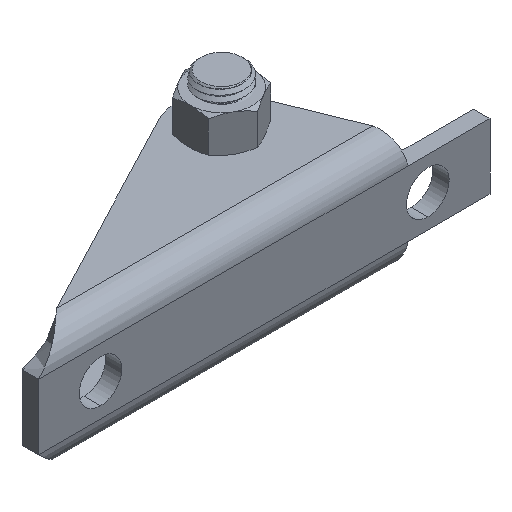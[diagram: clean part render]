
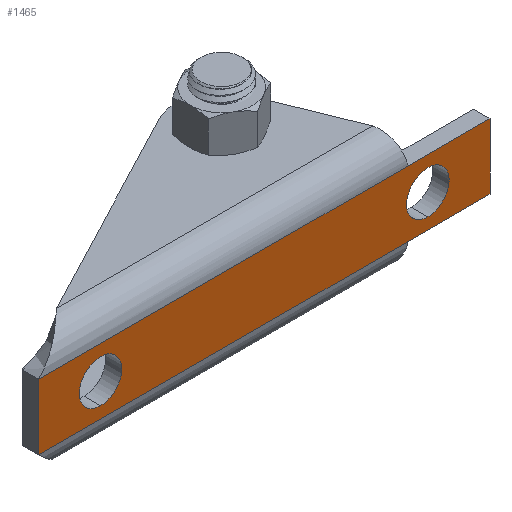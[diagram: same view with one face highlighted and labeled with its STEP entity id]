
A CAD part, isometric view. The second image highlights one B-rep face of the part: STEP entity #1465.
In plain terms, the highlighted planar face has unit normal (0, -1, 0).
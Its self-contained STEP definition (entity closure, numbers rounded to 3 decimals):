
#41 = EDGE_CURVE ( 'NONE', #683, #934, #1193, .T. ) ;
#72 = VECTOR ( 'NONE', #1661, 1000. ) ;
#75 = ORIENTED_EDGE ( 'NONE', *, *, #987, .T. ) ;
#183 = CARTESIAN_POINT ( 'NONE',  ( 0., -2.5, -10. ) ) ;
#211 = DIRECTION ( 'NONE',  ( -1., 0., 0. ) ) ;
#304 = DIRECTION ( 'NONE',  ( -1., 0., 0. ) ) ;
#321 = ORIENTED_EDGE ( 'NONE', *, *, #514, .T. ) ;
#329 = AXIS2_PLACEMENT_3D ( 'NONE', #2761, #347, #390 ) ;
#347 = DIRECTION ( 'NONE',  ( 0., 1., 0. ) ) ;
#356 = ORIENTED_EDGE ( 'NONE', *, *, #419, .T. ) ;
#390 = DIRECTION ( 'NONE',  ( 0., 0., 1. ) ) ;
#419 = EDGE_CURVE ( 'NONE', #1715, #2754, #2532, .T. ) ;
#442 = VERTEX_POINT ( 'NONE', #1198 ) ;
#444 = PLANE ( 'NONE',  #1038 ) ;
#447 = AXIS2_PLACEMENT_3D ( 'NONE', #2852, #1997, #3370 ) ;
#514 = EDGE_CURVE ( 'NONE', #2754, #1715, #2741, .T. ) ;
#649 = AXIS2_PLACEMENT_3D ( 'NONE', #2700, #873, #1107 ) ;
#677 = CARTESIAN_POINT ( 'NONE',  ( 56.5, -2.5, -10. ) ) ;
#683 = VERTEX_POINT ( 'NONE', #1094 ) ;
#732 = EDGE_CURVE ( 'NONE', #2585, #2734, #2284, .T. ) ;
#736 = DIRECTION ( 'NONE',  ( 0., 0., 1. ) ) ;
#873 = DIRECTION ( 'NONE',  ( 0., 1., 0. ) ) ;
#904 = DIRECTION ( 'NONE',  ( 1., 0., 0. ) ) ;
#934 = VERTEX_POINT ( 'NONE', #2680 ) ;
#952 = DIRECTION ( 'NONE',  ( 1., 0., 0. ) ) ;
#987 = EDGE_CURVE ( 'NONE', #2047, #442, #1613, .T. ) ;
#1000 = CARTESIAN_POINT ( 'NONE',  ( 9.5, -2.5, -1.75 ) ) ;
#1038 = AXIS2_PLACEMENT_3D ( 'NONE', #3400, #1780, #736 ) ;
#1083 = LINE ( 'NONE', #1669, #1603 ) ;
#1086 = CIRCLE ( 'NONE', #447, 3.25 ) ;
#1094 = CARTESIAN_POINT ( 'NONE',  ( 0., -2.5, 0. ) ) ;
#1102 = ORIENTED_EDGE ( 'NONE', *, *, #2415, .F. ) ;
#1107 = DIRECTION ( 'NONE',  ( 0., 0., 1. ) ) ;
#1171 = VERTEX_POINT ( 'NONE', #1649 ) ;
#1186 = DIRECTION ( 'NONE',  ( 0., 0., -1. ) ) ;
#1193 = LINE ( 'NONE', #3245, #1276 ) ;
#1198 = CARTESIAN_POINT ( 'NONE',  ( 9.5, -2.5, -8.25 ) ) ;
#1276 = VECTOR ( 'NONE', #904, 1000. ) ;
#1283 = LINE ( 'NONE', #1453, #2291 ) ;
#1396 = VERTEX_POINT ( 'NONE', #183 ) ;
#1437 = ORIENTED_EDGE ( 'NONE', *, *, #1577, .F. ) ;
#1453 = CARTESIAN_POINT ( 'NONE',  ( 69., -2.5, 0. ) ) ;
#1465 = ADVANCED_FACE ( 'NONE', ( #2673, #3226, #2586 ), #444, .F. ) ;
#1577 = EDGE_CURVE ( 'NONE', #1171, #2585, #1283, .T. ) ;
#1603 = VECTOR ( 'NONE', #304, 1000. ) ;
#1613 = CIRCLE ( 'NONE', #649, 3.25 ) ;
#1649 = CARTESIAN_POINT ( 'NONE',  ( 69., -2.5, 0. ) ) ;
#1661 = DIRECTION ( 'NONE',  ( 0., 0., 1. ) ) ;
#1669 = CARTESIAN_POINT ( 'NONE',  ( 43., -2.5, -10. ) ) ;
#1715 = VERTEX_POINT ( 'NONE', #3116 ) ;
#1780 = DIRECTION ( 'NONE',  ( 0., 1., 0. ) ) ;
#1790 = EDGE_CURVE ( 'NONE', #934, #1171, #2245, .T. ) ;
#1803 = EDGE_CURVE ( 'NONE', #442, #2047, #1086, .T. ) ;
#1943 = CARTESIAN_POINT ( 'NONE',  ( 0., -2.5, 0. ) ) ;
#1997 = DIRECTION ( 'NONE',  ( 0., 1., 0. ) ) ;
#2002 = AXIS2_PLACEMENT_3D ( 'NONE', #3352, #2223, #2490 ) ;
#2004 = CARTESIAN_POINT ( 'NONE',  ( 56.5, -2.5, -10. ) ) ;
#2029 = ORIENTED_EDGE ( 'NONE', *, *, #2397, .F. ) ;
#2047 = VERTEX_POINT ( 'NONE', #1000 ) ;
#2171 = ORIENTED_EDGE ( 'NONE', *, *, #41, .F. ) ;
#2223 = DIRECTION ( 'NONE',  ( 0., 1., 0. ) ) ;
#2224 = EDGE_LOOP ( 'NONE', ( #75, #2824 ) ) ;
#2245 = LINE ( 'NONE', #3398, #3302 ) ;
#2284 = LINE ( 'NONE', #677, #2618 ) ;
#2291 = VECTOR ( 'NONE', #1186, 1000. ) ;
#2397 = EDGE_CURVE ( 'NONE', #1396, #683, #2534, .T. ) ;
#2415 = EDGE_CURVE ( 'NONE', #2734, #1396, #1083, .T. ) ;
#2490 = DIRECTION ( 'NONE',  ( 0., 0., 1. ) ) ;
#2532 = CIRCLE ( 'NONE', #329, 3.25 ) ;
#2534 = LINE ( 'NONE', #1943, #72 ) ;
#2585 = VERTEX_POINT ( 'NONE', #2932 ) ;
#2586 = FACE_BOUND ( 'NONE', #2224, .T. ) ;
#2618 = VECTOR ( 'NONE', #211, 1000. ) ;
#2663 = EDGE_LOOP ( 'NONE', ( #1102, #3424, #1437, #3388, #2171, #2029 ) ) ;
#2673 = FACE_OUTER_BOUND ( 'NONE', #2663, .T. ) ;
#2680 = CARTESIAN_POINT ( 'NONE',  ( 56.5, -2.5, 0. ) ) ;
#2700 = CARTESIAN_POINT ( 'NONE',  ( 9.5, -2.5, -5. ) ) ;
#2734 = VERTEX_POINT ( 'NONE', #2004 ) ;
#2741 = CIRCLE ( 'NONE', #2002, 3.25 ) ;
#2754 = VERTEX_POINT ( 'NONE', #3073 ) ;
#2761 = CARTESIAN_POINT ( 'NONE',  ( 59.5, -2.5, -5. ) ) ;
#2824 = ORIENTED_EDGE ( 'NONE', *, *, #1803, .T. ) ;
#2852 = CARTESIAN_POINT ( 'NONE',  ( 9.5, -2.5, -5. ) ) ;
#2932 = CARTESIAN_POINT ( 'NONE',  ( 69., -2.5, -10. ) ) ;
#3073 = CARTESIAN_POINT ( 'NONE',  ( 59.5, -2.5, -8.25 ) ) ;
#3116 = CARTESIAN_POINT ( 'NONE',  ( 59.5, -2.5, -1.75 ) ) ;
#3226 = FACE_BOUND ( 'NONE', #3253, .T. ) ;
#3245 = CARTESIAN_POINT ( 'NONE',  ( 43., -2.5, 0. ) ) ;
#3253 = EDGE_LOOP ( 'NONE', ( #356, #321 ) ) ;
#3302 = VECTOR ( 'NONE', #952, 1000. ) ;
#3352 = CARTESIAN_POINT ( 'NONE',  ( 59.5, -2.5, -5. ) ) ;
#3370 = DIRECTION ( 'NONE',  ( 0., 0., 1. ) ) ;
#3388 = ORIENTED_EDGE ( 'NONE', *, *, #1790, .F. ) ;
#3398 = CARTESIAN_POINT ( 'NONE',  ( 56.5, -2.5, 0. ) ) ;
#3400 = CARTESIAN_POINT ( 'NONE',  ( 43., -2.5, 14.53 ) ) ;
#3424 = ORIENTED_EDGE ( 'NONE', *, *, #732, .F. ) ;
